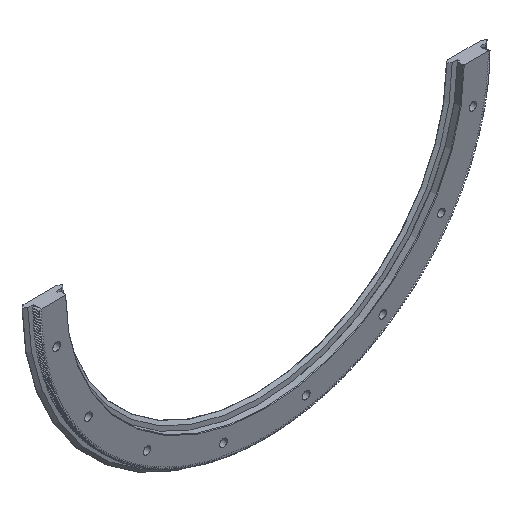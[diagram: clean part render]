
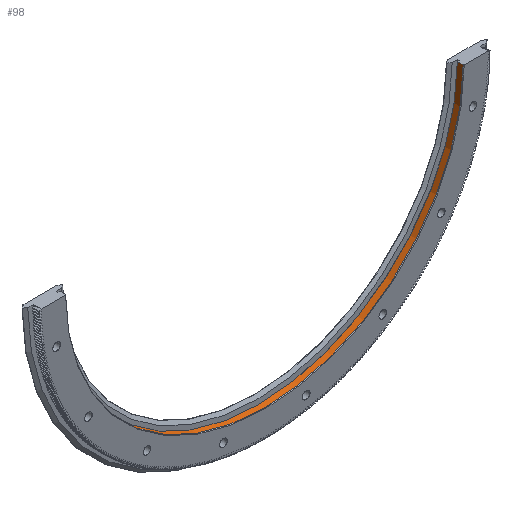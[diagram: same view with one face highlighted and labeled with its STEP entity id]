
A CAD part, isometric view. The second image highlights one B-rep face of the part: STEP entity #98.
In plain terms, the highlighted cylindrical face has radius 374.25 mm (diameter 748.5 mm), a partial arc.
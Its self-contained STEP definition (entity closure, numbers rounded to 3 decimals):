
#98 = ADVANCED_FACE( '', ( #1875 ), #1876, .F. );
#1875 = FACE_OUTER_BOUND( '', #5404, .T. );
#1876 = CYLINDRICAL_SURFACE( '', #5405, 374.25 );
#5404 = EDGE_LOOP( '', ( #9628, #9629, #9630, #9631 ) );
#5405 = AXIS2_PLACEMENT_3D( '', #9632, #9633, #9634 );
#9628 = ORIENTED_EDGE( '', *, *, #23932, .F. );
#9629 = ORIENTED_EDGE( '', *, *, #23296, .T. );
#9630 = ORIENTED_EDGE( '', *, *, #23933, .T. );
#9631 = ORIENTED_EDGE( '', *, *, #23924, .T. );
#9632 = CARTESIAN_POINT( '', ( 0., 0., 0. ) );
#9633 = DIRECTION( '', ( 0., 1., 0. ) );
#9634 = DIRECTION( '', ( 0., 0., -1. ) );
#23296 = EDGE_CURVE( '', #27904, #27902, #27905, .T. );
#23924 = EDGE_CURVE( '', #29144, #29142, #29145, .F. );
#23932 = EDGE_CURVE( '', #27904, #29142, #29158, .T. );
#23933 = EDGE_CURVE( '', #27902, #29144, #29159, .T. );
#27902 = VERTEX_POINT( '', #35398 );
#27904 = VERTEX_POINT( '', #35403 );
#27905 = LINE( '', #35404, #35405 );
#29142 = VERTEX_POINT( '', #36723 );
#29144 = VERTEX_POINT( '', #36726 );
#29145 = LINE( '', #36727, #36728 );
#29158 = CIRCLE( '', #36745, 374.25 );
#29159 = CIRCLE( '', #36746, 374.25 );
#35398 = CARTESIAN_POINT( '', ( -374.245, 1., -2. ) );
#35403 = CARTESIAN_POINT( '', ( -374.245, 12., -2. ) );
#35404 = CARTESIAN_POINT( '', ( -374.245, 0., -2. ) );
#35405 = VECTOR( '', #47149, 1000. );
#36723 = CARTESIAN_POINT( '', ( 374.245, 12., -2. ) );
#36726 = CARTESIAN_POINT( '', ( 374.245, 1., -2. ) );
#36727 = CARTESIAN_POINT( '', ( 374.245, 0., -2. ) );
#36728 = VECTOR( '', #48939, 1000. );
#36745 = AXIS2_PLACEMENT_3D( '', #48956, #48957, #48958 );
#36746 = AXIS2_PLACEMENT_3D( '', #48959, #48960, #48961 );
#47149 = DIRECTION( '', ( 0., -1., 0. ) );
#48939 = DIRECTION( '', ( 0., -1., 0. ) );
#48956 = CARTESIAN_POINT( '', ( 0., 12., 0. ) );
#48957 = DIRECTION( '', ( 0., -1., 0. ) );
#48958 = DIRECTION( '', ( 0., 0., -1. ) );
#48959 = CARTESIAN_POINT( '', ( 0., 1., 0. ) );
#48960 = DIRECTION( '', ( 0., -1., 0. ) );
#48961 = DIRECTION( '', ( 0., 0., -1. ) );
